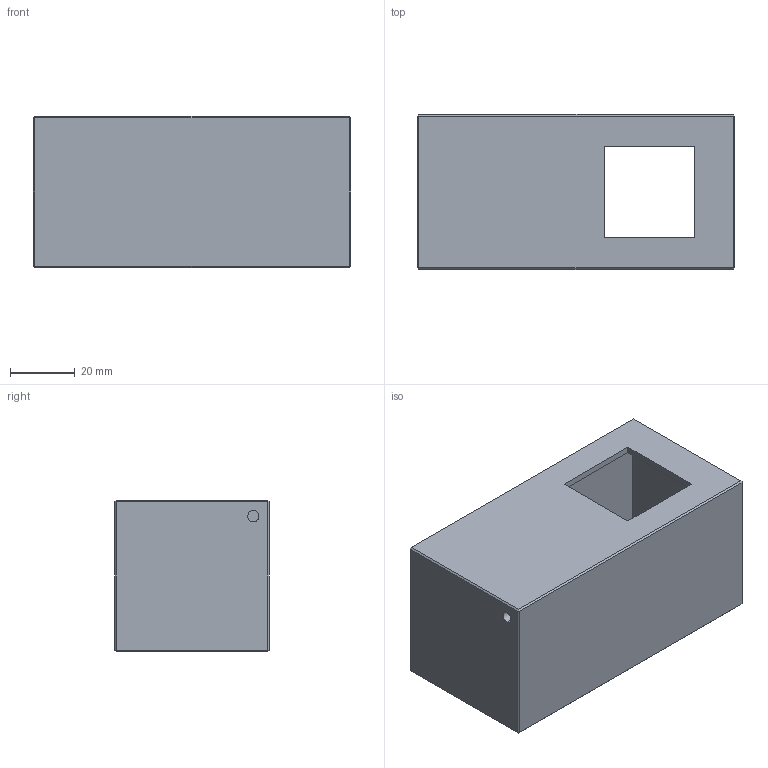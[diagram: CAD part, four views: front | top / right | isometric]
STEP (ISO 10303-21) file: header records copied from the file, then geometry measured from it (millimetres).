
FILE_DESCRIPTION (( 'STEP AP214' ), '1' );
FILE_NAME ('CST-HCOS40-简易3D图.STEP', '2019-06-03T10:52:34', ( '微软用户' ), ( '微软中国' ), 'SwSTEP 2.0', 'SolidWorks 2014', '' );
FILE_SCHEMA (( 'AUTOMOTIVE_DESIGN' ));
Length unit declared in the file: millimetre
Products named in the file (1): CST-HCOS40-潠眢3D芞
Bounding box: 98.5 x 48 x 47 mm (x, y, z)
Volume: 141102.9 mm3; surface area: 29478.6 mm2
Topology: 1 solids, 1 shells, 62 faces, 138 edges, 80 vertices
Faces by surface type: plane 36, cylinder 14, cone 12
Entity records: 1868 total; most frequent: DIRECTION 304, CARTESIAN_POINT 281, ORIENTED_EDGE 276, EDGE_CURVE 138, AXIS2_PLACEMENT_3D 103, LINE 98, VECTOR 98, VERTEX_POINT 80
